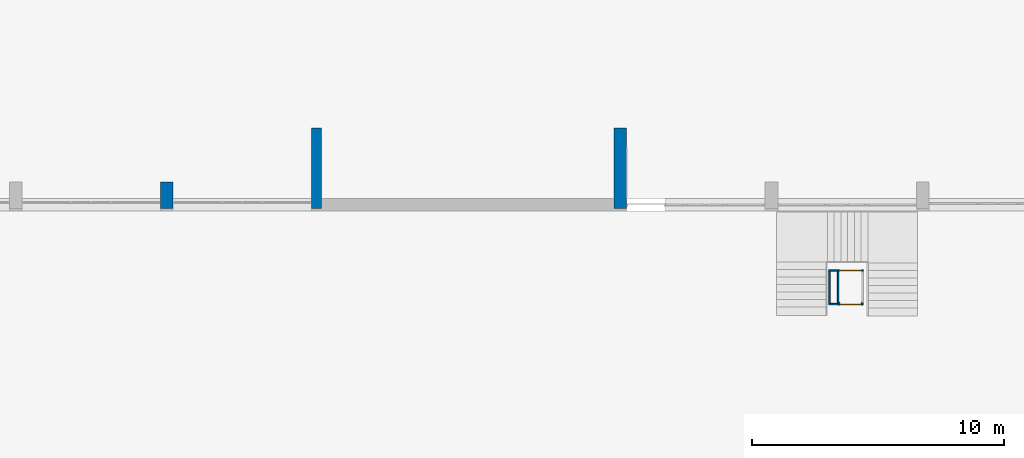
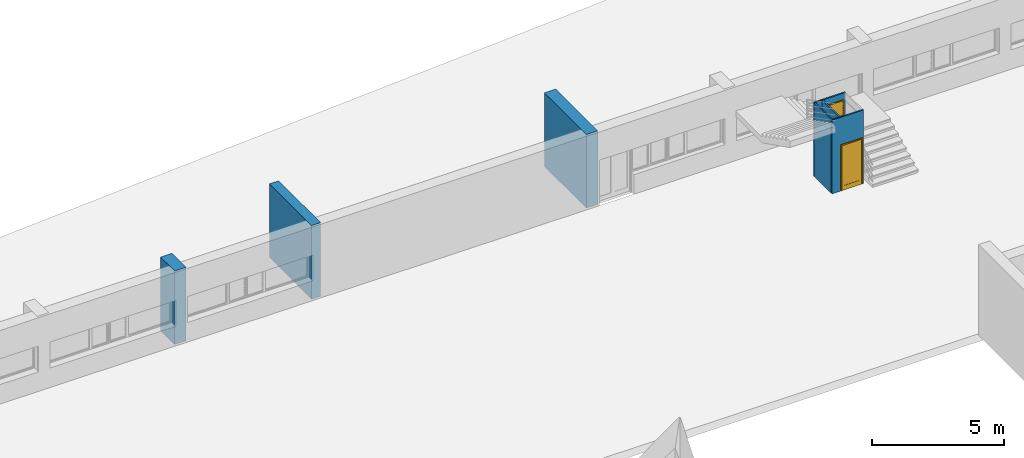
# One storey, part 4 of 36: 7 walls, 1 door, 1 window, 2 openings.
"""IFC2X3 building model written with IfcOpenShell, lengths in millimetres."""

from ifc_helpers import new_model, entity, si_unit, converted_unit, money_unit, direction, frame, origin_with_axes, place, context, subcontext, project, spatial, polyline, outline, extrude, open_shell, faceted_brep, surface_model, source, transform, mapped, material, material_list, layer, layer_set, layer_usage, type_object, element, fill, save


model = new_model("IFC2X3")

# Units and contexts
model_context = context("Model", 3, precision=1e-05, world=origin_with_axes(), true_north=direction((0.0, 1.0)))
body_context = subcontext(model_context, "Body", "Model", "MODEL_VIEW")
ifc_project = project(units=[si_unit("LENGTHUNIT", "METRE", prefix="MILLI"), si_unit("AREAUNIT", "SQUARE_METRE"), si_unit("VOLUMEUNIT", "CUBIC_METRE"), converted_unit("PLANEANGLEUNIT", "DEGREE", entity("IfcPlaneAngleMeasure", 0.0174532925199), si_unit("PLANEANGLEUNIT", "RADIAN"), dimensions=[0, 0, 0, 0, 0, 0, 0]), si_unit("SOLIDANGLEUNIT", "STERADIAN"), money_unit("USD"), converted_unit("TIMEUNIT", "Year", entity("IfcTimeMeasure", 31556926.0), si_unit("TIMEUNIT", "SECOND"), dimensions=[0, 0, 0, 0, 0, 0, 0]), si_unit("MASSUNIT", "GRAM"), si_unit("THERMODYNAMICTEMPERATUREUNIT", "DEGREE_CELSIUS"), si_unit("LUMINOUSINTENSITYUNIT", "LUMEN")], contexts=[model_context])

# Site, building, storey
site_placement = place(None, origin_with_axes())
site = spatial("IfcSite", under=ifc_project, at=site_placement, Name="Site", CompositionType="ELEMENT")
building_placement = place(site_placement, origin_with_axes())
building = spatial("IfcBuilding", under=site, at=building_placement, Name="Building", CompositionType="ELEMENT")
storey_placement = place(building_placement, frame((0.0, 0.0, -3400.0), z_axis=(0.0, 0.0, 1.0), x_axis=(1.0, 0.0, 0.0)))
storey = spatial("IfcBuildingStorey", under=building, at=storey_placement, Name="1KORRUS", CompositionType="ELEMENT", Elevation=-3400.0)

# Walls
ifc_material_1 = material(Name="Olemasolevad seinad tellis, uus viimistlus")
ifc_layer_1 = layer(ifc_material_1, 400.0, ventilated="UNKNOWN")
ifc_layer_set_1 = layer_set([ifc_layer_1], Name="Olemasolevad seinad tellis, uus viimistlus 400")
ifc_layer_usage_1 = layer_usage(ifc_layer_set_1, "AXIS2", "POSITIVE", 0.0)
wall_type_1 = type_object("IfcWallType", Name="Olemasolevad seinad tellis, uus viimistlus 400", PredefinedType="NOTDEFINED")
wall_1_placement = place(storey_placement, frame((-30001.8622273, -5039.6041088, 0.0), z_axis=(0.0, 0.0, 1.0), x_axis=(0.0, 1.0, 0.0)))
element("IfcWallStandardCase", 1, at=wall_1_placement, inside=storey, type_object=wall_type_1, material=ifc_layer_usage_1, Name="VS1", ObjectType="VS1", context=body_context, shape_type="SweptSolid", body=[
    extrude(outline(polyline([(0.0, 0.0), (3184.43089484, 0.0), (3184.43089484, 400.0), (0.0, 400.0), (0.0, 0.0)])), origin_with_axes(), (0.0, 0.0, 1.0), 3400.0),
])
ifc_layer_2 = layer(ifc_material_1, 500.0, ventilated="UNKNOWN")
ifc_layer_set_2 = layer_set([ifc_layer_2], Name="Olemasolevad seinad tellis, uus viimistlus 500")
ifc_layer_usage_2 = layer_usage(ifc_layer_set_2, "AXIS2", "POSITIVE", -100.0)
wall_type_2 = type_object("IfcWallType", Name="Olemasolevad seinad tellis, uus viimistlus 500", PredefinedType="NOTDEFINED")
wall_2_placement = place(storey_placement, frame((-35990.2967033, -5039.6041088, 0.0), z_axis=(0.0, 0.0, 1.0), x_axis=(0.0, 1.0, 0.0)))
element("IfcWallStandardCase", 2, at=wall_2_placement, inside=storey, type_object=wall_type_2, material=ifc_layer_usage_2, Name="VS1", ObjectType="VS1", context=body_context, shape_type="SweptSolid", body=[
    extrude(outline(polyline([(0.0, -100.0), (1057.40204125, -100.0), (1057.40204125, 400.0), (0.0, 400.0), (0.0, -100.0)])), origin_with_axes(), (0.0, 0.0, 1.0), 3400.0),
])
ifc_layer_usage_3 = layer_usage(ifc_layer_set_2, "AXIS2", "POSITIVE", 0.0)
wall_3_placement = place(storey_placement, frame((-17890.2967033, -5039.6041088, 0.0), z_axis=(0.0, 0.0, 1.0), x_axis=(0.0, 1.0, 0.0)))
element("IfcWallStandardCase", 3, at=wall_3_placement, inside=storey, type_object=wall_type_2, material=ifc_layer_usage_3, Name="VS1", ObjectType="VS1", context=body_context, shape_type="SweptSolid", body=[
    extrude(outline(polyline([(0.0, 0.0), (3184.43089484, 0.0), (3184.43089484, 500.0), (0.0, 500.0), (0.0, 0.0)])), origin_with_axes(), (0.0, 0.0, 1.0), 3400.0),
])
ifc_material_2 = material(Name="Terasprofiil")
ifc_layer_3 = layer(ifc_material_2, 60.0, ventilated="UNKNOWN")
ifc_layer_set_3 = layer_set([ifc_layer_3], Name="Terasprofiil 60")
ifc_layer_usage_4 = layer_usage(ifc_layer_set_3, "AXIS2", "POSITIVE", -60.0)
wall_type_3 = type_object("IfcWallType", Name="Terasprofiil 60", PredefinedType="NOTDEFINED")
wall_4_placement = place(storey_placement, frame((-9469.40654634, -7470.64352695, 0.0), z_axis=(0.0, 0.0, 1.0), x_axis=(0.0, -1.0, 0.0)))
element("IfcWallStandardCase", 4, at=wall_4_placement, inside=storey, type_object=wall_type_3, material=ifc_layer_usage_4, Name="Lifti sein", ObjectType="Lifti sein", context=body_context, shape_type="SweptSolid", body=[
    extrude(outline(polyline([(0.0, -60.0), (1400.0, -60.0), (1400.0, 0.0), (0.0, 0.0), (0.0, -60.0)])), origin_with_axes(), (0.0, 0.0, 1.0), 3400.0),
])

# Wall, opening, door
ifc_layer_usage_5 = layer_usage(ifc_layer_set_3, "AXIS2", "POSITIVE", -60.0)
wall_5_placement = place(storey_placement, frame((-8491.93119318, -8870.64352695, 0.0), z_axis=(0.0, 0.0, 1.0), x_axis=(-1.0, 0.0, 0.0)))
wall_5 = element("IfcWallStandardCase", 5, at=wall_5_placement, inside=storey, type_object=wall_type_3, material=ifc_layer_usage_5, Name="LS1", ObjectType="Lifti sein", context=body_context, shape_type="SweptSolid", body=[
    extrude(outline(polyline([(0.0, -60.0), (1377.47535316, -60.0), (1377.47535316, 0.0), (0.0, 0.0), (0.0, -60.0)])), origin_with_axes(), (0.0, 0.0, 1.0), 3400.0),
])
opening_1_placement = place(wall_5_placement, frame((512.692164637, 0.0, 0.0), z_axis=(0.0, 0.0, 1.0), x_axis=(1.0, 0.0, 0.0)))
opening_1 = element("IfcOpeningElement", 6, at=opening_1_placement, cuts=wall_5, Name="Liftiuks", context=body_context, shape_type="SweptSolid", body=[
    extrude(outline(polyline([(-450.0, -2100.0), (450.0, -2100.0), (450.0, 0.0), (-450.0, 0.0), (-450.0, -2100.0)])), frame((0.0, -60.0, 0.0), z_axis=(0.0, 1.0, 0.0), x_axis=(1.0, 0.0, 0.0)), (0.0, 0.0, 1.0), 180.0),
    extrude(outline(polyline([(-487.0, 2137.0), (-487.0, 0.0), (487.0, 0.0), (487.0, 2137.0), (-487.0, 2137.0)])), frame((0.0, -60.0, 0.0), z_axis=(0.0, -1.0, 0.0), x_axis=(1.0, 0.0, 0.0)), (0.0, 0.0, 1.0), 60.0),
    extrude(outline(polyline([(-487.0, 0.0), (-487.0, -2137.0), (487.0, -2137.0), (487.0, 0.0), (-487.0, 0.0)])), frame((0.0, 0.0, 0.0), z_axis=(0.0, 1.0, 0.0), x_axis=(1.0, 0.0, 0.0)), (0.0, 0.0, 1.0), 60.0),
])
ifc_material_3 = material(Name="Background")
ifc_material_list = material_list([ifc_material_3])
door_style = type_object("IfcDoorStyle", Name="Door 19", ConstructionType="NOTDEFINED", OperationType="SINGLE_SWING_RIGHT", ParameterTakesPrecedence=False, Sizeable=False)
shared_shape_1 = source(origin_with_axes(), body_context, "Body", "SurfaceModel", [
    faceted_brep([(-487.0, -79.0, 0.0), (-487.0, -60.0, 0.0), (-437.0, -60.0, 0.0), (-437.0, -79.0, 0.0), (-487.0, -79.0, 2137.0), (-487.0, -60.0, 2137.0), (-437.0, -60.0, 2087.0), (-437.0, -79.0, 2087.0)], [[[0, 1, 2, 3]], [[4, 5, 1, 0]], [[1, 5, 6, 2]], [[3, 2, 6, 7]], [[0, 3, 7, 4]], [[7, 6, 5, 4]]]),
    faceted_brep([(487.0, -79.0, 2137.0), (487.0, -60.0, 2137.0), (437.0, -60.0, 2087.0), (437.0, -79.0, 2087.0), (487.0, -79.0, 0.0), (487.0, -60.0, 0.0), (437.0, -60.0, 0.0), (437.0, -79.0, 0.0)], [[[0, 1, 2, 3]], [[4, 5, 1, 0]], [[1, 5, 6, 2]], [[3, 2, 6, 7]], [[0, 3, 7, 4]], [[7, 6, 5, 4]]]),
    faceted_brep([(-487.0, -79.0, 2137.0), (-487.0, -60.0, 2137.0), (-437.0, -60.0, 2087.0), (-437.0, -79.0, 2087.0), (487.0, -79.0, 2137.0), (487.0, -60.0, 2137.0), (437.0, -60.0, 2087.0), (437.0, -79.0, 2087.0)], [[[0, 1, 2, 3]], [[4, 5, 1, 0]], [[1, 5, 6, 2]], [[3, 2, 6, 7]], [[0, 3, 7, 4]], [[7, 6, 5, 4]]]),
    faceted_brep([(-487.0, 19.0, 0.0), (-437.0, 19.0, 0.0), (-437.0, 0.0, 0.0), (-487.0, 0.0, 0.0), (-487.0, 19.0, 2137.0), (-437.0, 19.0, 2087.0), (-437.0, 0.0, 2087.0), (-487.0, 0.0, 2137.0)], [[[0, 1, 2, 3]], [[0, 4, 5, 1]], [[1, 5, 6, 2]], [[3, 2, 6, 7]], [[4, 0, 3, 7]], [[5, 4, 7, 6]]]),
    faceted_brep([(487.0, 19.0, 2137.0), (437.0, 19.0, 2087.0), (437.0, 0.0, 2087.0), (487.0, 0.0, 2137.0), (487.0, 19.0, 0.0), (437.0, 19.0, 0.0), (437.0, 0.0, 0.0), (487.0, 0.0, 0.0)], [[[0, 1, 2, 3]], [[0, 4, 5, 1]], [[1, 5, 6, 2]], [[3, 2, 6, 7]], [[4, 0, 3, 7]], [[5, 4, 7, 6]]]),
    faceted_brep([(-487.0, 19.0, 2137.0), (-437.0, 19.0, 2087.0), (-437.0, 0.0, 2087.0), (-487.0, 0.0, 2137.0), (487.0, 19.0, 2137.0), (437.0, 19.0, 2087.0), (437.0, 0.0, 2087.0), (487.0, 0.0, 2137.0)], [[[0, 1, 2, 3]], [[0, 4, 5, 1]], [[1, 5, 6, 2]], [[3, 2, 6, 7]], [[4, 0, 3, 7]], [[5, 4, 7, 6]]]),
    faceted_brep([(-410.0, -40.0, 0.0), (-410.0, -40.0, 2060.0), (-410.0, -115.0, 2060.0), (-410.0, -115.0, 0.0), (-422.0, -40.0, 2060.0), (-422.0, -40.0, 0.0), (-422.0, 0.0, 2060.0), (-450.0, 0.0, 2060.0), (-450.0, -115.0, 2060.0), (-450.0, -115.0, 0.0), (-450.0, 0.0, 0.0), (-422.0, 0.0, 0.0)], [[[0, 1, 2, 3]], [[4, 1, 0, 5]], [[4, 6, 7, 8, 2, 1]], [[2, 8, 9, 3]], [[5, 0, 3, 9, 10, 11]], [[6, 4, 5, 11]], [[6, 11, 10, 7]], [[9, 8, 7, 10]]]),
    faceted_brep([(422.0, -40.0, 2060.0), (410.0, -40.0, 2060.0), (410.0, -115.0, 2060.0), (450.0, -115.0, 2060.0), (450.0, 0.0, 2060.0), (422.0, 0.0, 2060.0), (422.0, -40.0, 0.0), (410.0, -40.0, 0.0), (410.0, -115.0, 0.0), (450.0, -115.0, 0.0), (450.0, 0.0, 0.0), (422.0, 0.0, 0.0)], [[[0, 1, 2, 3, 4, 5]], [[1, 0, 6, 7]], [[1, 7, 8, 2]], [[2, 8, 9, 3]], [[3, 9, 10, 4]], [[11, 5, 4, 10]], [[0, 5, 11, 6]], [[6, 11, 10, 9, 8, 7]]]),
    faceted_brep([(-422.0, 0.0, 2072.0), (-422.0, 0.0, 2060.0), (-450.0, 0.0, 2060.0), (-450.0, 0.0, 2100.0), (450.0, 0.0, 2100.0), (450.0, 0.0, 2060.0), (422.0, 0.0, 2060.0), (422.0, 0.0, 2072.0), (-422.0, -40.0, 2072.0), (-422.0, -40.0, 2060.0), (-410.0, -40.0, 2060.0), (-410.0, -115.0, 2060.0), (-450.0, -115.0, 2060.0), (-450.0, -115.0, 2100.0), (450.0, -115.0, 2100.0), (450.0, -115.0, 2060.0), (422.0, -40.0, 2060.0), (410.0, -115.0, 2060.0), (410.0, -40.0, 2060.0), (422.0, -40.0, 2072.0)], [[[0, 1, 2, 3, 4, 5, 6, 7]], [[1, 0, 8, 9]], [[9, 10, 11, 12, 2, 1]], [[12, 13, 3, 2]], [[13, 14, 4, 3]], [[14, 15, 5, 4]], [[16, 6, 5, 15, 17, 18]], [[7, 6, 16, 19]], [[0, 7, 19, 8]], [[16, 18, 10, 9, 8, 19]], [[10, 18, 17, 11]], [[15, 14, 13, 12, 11, 17]]]),
    faceted_brep([(422.0, 0.0, 200.0), (422.0, -40.0, 200.0), (322.0, -40.0, 200.0), (322.0, 0.0, 200.0), (422.0, 0.0, 1972.0), (422.0, -40.0, 1972.0), (322.0, -40.0, 1972.0), (322.0, 0.0, 1972.0)], [[[0, 1, 2, 3]], [[4, 5, 1, 0]], [[1, 5, 6, 2]], [[3, 2, 6, 7]], [[0, 3, 7, 4]], [[7, 6, 5, 4]]]),
    faceted_brep([(-422.0, 0.0, 200.0), (-422.0, -40.0, 200.0), (-422.0, -40.0, 1972.0), (-422.0, 0.0, 1972.0), (-322.0, 0.0, 200.0), (-322.0, -40.0, 200.0), (-322.0, -40.0, 1972.0), (-322.0, 0.0, 1972.0)], [[[0, 1, 2, 3]], [[4, 5, 1, 0]], [[1, 5, 6, 2]], [[3, 2, 6, 7]], [[0, 3, 7, 4]], [[7, 6, 5, 4]]]),
    faceted_brep([(422.0, 0.0, 0.0), (422.0, -40.0, 0.0), (-422.0, -40.0, 0.0), (-422.0, 0.0, 0.0), (422.0, 0.0, 200.0), (422.0, -40.0, 200.0), (322.0, -40.0, 200.0), (-322.0, -40.0, 200.0), (-422.0, -40.0, 200.0), (-422.0, 0.0, 200.0), (-322.0, 0.0, 200.0), (322.0, 0.0, 200.0)], [[[0, 1, 2, 3]], [[4, 5, 1, 0]], [[1, 5, 6, 7, 8, 2]], [[3, 2, 8, 9]], [[0, 3, 9, 10, 11, 4]], [[11, 6, 5, 4]], [[10, 7, 6, 11]], [[9, 8, 7, 10]]]),
    faceted_brep([(422.0, 0.0, 2072.0), (422.0, -40.0, 2072.0), (422.0, -40.0, 1972.0), (422.0, 0.0, 1972.0), (-422.0, 0.0, 2072.0), (-422.0, -40.0, 2072.0), (-422.0, -40.0, 1972.0), (-322.0, -40.0, 1972.0), (322.0, -40.0, 1972.0), (322.0, 0.0, 1972.0), (-322.0, 0.0, 1972.0), (-422.0, 0.0, 1972.0)], [[[0, 1, 2, 3]], [[4, 5, 1, 0]], [[1, 5, 6, 7, 8, 2]], [[3, 2, 8, 9]], [[0, 3, 9, 10, 11, 4]], [[11, 6, 5, 4]], [[10, 7, 6, 11]], [[9, 8, 7, 10]]]),
    surface_model("IfcShellBasedSurfaceModel", [(322.0, -14.0, 200.0), (-322.0, -14.0, 200.0), (-322.0, -14.0, 1972.0), (322.0, -14.0, 1972.0)], [open_shell([[[0, 1, 2, 3]]])]),
    surface_model("IfcShellBasedSurfaceModel", [(322.0, -26.0, 200.0), (322.0, -26.0, 1972.0), (-322.0, -26.0, 1972.0), (-322.0, -26.0, 200.0)], [open_shell([[[0, 1, 2, 3]]])]),
])
door_placement = place(opening_1_placement, frame((-450.0, 0.0, 0.0), z_axis=(0.0, 0.0, 1.0), x_axis=(1.0, 0.0, 0.0)))
door = element("IfcDoor", 7, at=door_placement, inside=storey, type_object=door_style, material=ifc_material_list, Name="Liftiuks", ObjectType="door", OverallHeight=2100.0, OverallWidth=900.0, context=body_context, shape_type="MappedRepresentation", body=[
    mapped(shared_shape_1, transform((450.0, 0.0, 0.0))),
])
fill(opening_1, door)

# Wall, opening, window
ifc_layer_usage_6 = layer_usage(ifc_layer_set_3, "AXIS2", "POSITIVE", 0.0)
wall_6_placement = place(storey_placement, frame((-8491.93119318, -7470.64352695, 0.0), z_axis=(0.0, 0.0, 1.0), x_axis=(-1.0, 0.0, 0.0)))
wall_6 = element("IfcWallStandardCase", 8, at=wall_6_placement, inside=storey, type_object=wall_type_3, material=ifc_layer_usage_6, Name="LS1", ObjectType="Lifti sein", context=body_context, shape_type="SweptSolid", body=[
    extrude(outline(polyline([(0.0, 0.0), (1377.47535316, 0.0), (1377.47535316, 60.0), (0.0, 60.0), (0.0, 0.0)])), origin_with_axes(), (0.0, 0.0, 1.0), 3400.0),
])
opening_2_placement = place(wall_6_placement, frame((518.737676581, 0.0, 0.0), z_axis=(0.0, 0.0, 1.0), x_axis=(1.0, 0.0, 0.0)))
opening_2 = element("IfcOpeningElement", 9, at=opening_2_placement, cuts=wall_6, Name="Lifti klaassein", context=body_context, shape_type="SweptSolid", body=[
    extrude(outline(polyline([(-450.0, 0.0), (450.0, 0.0), (450.0, 3100.0), (-450.0, 3100.0), (-450.0, 0.0)])), frame((0.0, -60.0, 0.0), z_axis=(0.0, 1.0, 0.0), x_axis=(-1.0, 0.0, 0.0)), (0.0, 0.0, 1.0), 180.0),
])
window_style = type_object("IfcWindowStyle", Name="Vertical Multi-Sash Window 19", ConstructionType="NOTDEFINED", OperationType="USERDEFINED", ParameterTakesPrecedence=False, Sizeable=False)
shared_shape_2 = source(origin_with_axes(), body_context, "Body", "SurfaceModel", [
    faceted_brep([(-400.0, -60.0, 3050.0), (-400.0, -10.0, 3050.0), (-450.0, -10.0, 3050.0), (-450.0, -60.0, 3050.0), (-400.0, -60.0, 2375.0), (-400.0, -10.0, 2375.0), (-400.0, -10.0, 2275.0), (-400.0, -10.0, 1600.0), (-400.0, -10.0, 1500.0), (-400.0, -10.0, 825.0), (-400.0, -10.0, 725.0), (-400.0, -10.0, 50.0), (-450.0, -10.0, 50.0), (-450.0, -60.0, 50.0), (-400.0, -60.0, 50.0), (-400.0, -60.0, 725.0), (-400.0, -60.0, 825.0), (-400.0, -60.0, 1500.0), (-400.0, -60.0, 1600.0), (-400.0, -60.0, 2275.0)], [[[0, 1, 2, 3]], [[4, 5, 1, 0]], [[1, 5, 6, 7, 8, 9, 10, 11, 12, 2]], [[3, 2, 12, 13]], [[0, 3, 13, 14, 15, 16, 17, 18, 19, 4]], [[19, 6, 5, 4]], [[18, 7, 6, 19]], [[17, 8, 7, 18]], [[16, 9, 8, 17]], [[15, 10, 9, 16]], [[14, 11, 10, 15]], [[13, 12, 11, 14]]]),
    faceted_brep([(400.0, -60.0, 2375.0), (400.0, -10.0, 2375.0), (400.0, -10.0, 2275.0), (400.0, -60.0, 2275.0), (400.0, -60.0, 3050.0), (400.0, -10.0, 3050.0), (450.0, -10.0, 3050.0), (450.0, -10.0, 50.0), (400.0, -10.0, 50.0), (400.0, -10.0, 725.0), (400.0, -10.0, 825.0), (400.0, -10.0, 1500.0), (400.0, -10.0, 1600.0), (400.0, -60.0, 1600.0), (400.0, -60.0, 1500.0), (400.0, -60.0, 825.0), (400.0, -60.0, 725.0), (400.0, -60.0, 50.0), (450.0, -60.0, 50.0), (450.0, -60.0, 3050.0)], [[[0, 1, 2, 3]], [[4, 5, 1, 0]], [[1, 5, 6, 7, 8, 9, 10, 11, 12, 2]], [[3, 2, 12, 13]], [[0, 3, 13, 14, 15, 16, 17, 18, 19, 4]], [[19, 6, 5, 4]], [[18, 7, 6, 19]], [[17, 8, 7, 18]], [[16, 9, 8, 17]], [[15, 10, 9, 16]], [[14, 11, 10, 15]], [[13, 12, 11, 14]]]),
    faceted_brep([(400.0, -60.0, 3050.0), (400.0, -10.0, 3050.0), (450.0, -10.0, 3050.0), (450.0, -60.0, 3050.0), (-400.0, -60.0, 3050.0), (-400.0, -10.0, 3050.0), (-450.0, -10.0, 3050.0), (-450.0, -10.0, 3100.0), (450.0, -10.0, 3100.0), (450.0, -60.0, 3100.0), (-450.0, -60.0, 3100.0), (-450.0, -60.0, 3050.0)], [[[0, 1, 2, 3]], [[4, 5, 1, 0]], [[1, 5, 6, 7, 8, 2]], [[3, 2, 8, 9]], [[0, 3, 9, 10, 11, 4]], [[11, 6, 5, 4]], [[10, 7, 6, 11]], [[9, 8, 7, 10]]]),
    faceted_brep([(-400.0, -60.0, 50.0), (-400.0, -10.0, 50.0), (-450.0, -10.0, 50.0), (-450.0, -60.0, 50.0), (400.0, -60.0, 50.0), (400.0, -10.0, 50.0), (450.0, -10.0, 50.0), (450.0, -10.0, 0.0), (-450.0, -10.0, 0.0), (-450.0, -60.0, 0.0), (450.0, -60.0, 0.0), (450.0, -60.0, 50.0)], [[[0, 1, 2, 3]], [[4, 5, 1, 0]], [[1, 5, 6, 7, 8, 2]], [[3, 2, 8, 9]], [[0, 3, 9, 10, 11, 4]], [[11, 6, 5, 4]], [[10, 7, 6, 11]], [[9, 8, 7, 10]]]),
    faceted_brep([(400.0, -60.0, 825.0), (400.0, -10.0, 825.0), (-400.0, -10.0, 825.0), (-400.0, -60.0, 825.0), (400.0, -60.0, 725.0), (400.0, -10.0, 725.0), (-400.0, -10.0, 725.0), (-400.0, -60.0, 725.0)], [[[0, 1, 2, 3]], [[4, 5, 1, 0]], [[1, 5, 6, 2]], [[3, 2, 6, 7]], [[0, 3, 7, 4]], [[7, 6, 5, 4]]]),
    faceted_brep([(400.0, -60.0, 1600.0), (400.0, -10.0, 1600.0), (-400.0, -10.0, 1600.0), (-400.0, -60.0, 1600.0), (400.0, -60.0, 1500.0), (400.0, -10.0, 1500.0), (-400.0, -10.0, 1500.0), (-400.0, -60.0, 1500.0)], [[[0, 1, 2, 3]], [[4, 5, 1, 0]], [[1, 5, 6, 2]], [[3, 2, 6, 7]], [[0, 3, 7, 4]], [[7, 6, 5, 4]]]),
    faceted_brep([(400.0, -60.0, 2375.0), (400.0, -10.0, 2375.0), (-400.0, -10.0, 2375.0), (-400.0, -60.0, 2375.0), (400.0, -60.0, 2275.0), (400.0, -10.0, 2275.0), (-400.0, -10.0, 2275.0), (-400.0, -60.0, 2275.0)], [[[0, 1, 2, 3]], [[4, 5, 1, 0]], [[1, 5, 6, 2]], [[3, 2, 6, 7]], [[0, 3, 7, 4]], [[7, 6, 5, 4]]]),
    surface_model("IfcShellBasedSurfaceModel", [(-400.0, -45.0, 50.0), (400.0, -45.0, 50.0), (400.0, -45.0, 725.0), (-400.0, -45.0, 725.0)], [open_shell([[[0, 1, 2, 3]]])]),
    surface_model("IfcShellBasedSurfaceModel", [(-400.0, -25.0, 50.0), (-400.0, -25.0, 725.0), (400.0, -25.0, 725.0), (400.0, -25.0, 50.0)], [open_shell([[[0, 1, 2, 3]]])]),
    surface_model("IfcShellBasedSurfaceModel", [(-400.0, -45.0, 825.0), (400.0, -45.0, 825.0), (400.0, -45.0, 1500.0), (-400.0, -45.0, 1500.0)], [open_shell([[[0, 1, 2, 3]]])]),
    surface_model("IfcShellBasedSurfaceModel", [(-400.0, -25.0, 825.0), (-400.0, -25.0, 1500.0), (400.0, -25.0, 1500.0), (400.0, -25.0, 825.0)], [open_shell([[[0, 1, 2, 3]]])]),
    surface_model("IfcShellBasedSurfaceModel", [(-400.0, -45.0, 1600.0), (400.0, -45.0, 1600.0), (400.0, -45.0, 2275.0), (-400.0, -45.0, 2275.0)], [open_shell([[[0, 1, 2, 3]]])]),
    surface_model("IfcShellBasedSurfaceModel", [(-400.0, -25.0, 1600.0), (-400.0, -25.0, 2275.0), (400.0, -25.0, 2275.0), (400.0, -25.0, 1600.0)], [open_shell([[[0, 1, 2, 3]]])]),
    surface_model("IfcShellBasedSurfaceModel", [(-400.0, -45.0, 2375.0), (400.0, -45.0, 2375.0), (400.0, -45.0, 3050.0), (-400.0, -45.0, 3050.0)], [open_shell([[[0, 1, 2, 3]]])]),
    surface_model("IfcShellBasedSurfaceModel", [(-400.0, -25.0, 2375.0), (-400.0, -25.0, 3050.0), (400.0, -25.0, 3050.0), (400.0, -25.0, 2375.0)], [open_shell([[[0, 1, 2, 3]]])]),
])
window_placement = place(opening_2_placement, frame((450.0, 0.0, 0.0), z_axis=(0.0, 0.0, 1.0), x_axis=(-1.0, 0.0, 0.0)))
window = element("IfcWindow", 10, at=window_placement, inside=storey, type_object=window_style, material=ifc_material_list, Name="Lifti klaassein", ObjectType="WINDOW", OverallHeight=3100.0, OverallWidth=900.0, context=body_context, shape_type="MappedRepresentation", body=[
    mapped(shared_shape_2, transform((450.0, 0.0, 0.0))),
])
fill(opening_2, window)

# Wall
ifc_layer_usage_7 = layer_usage(ifc_layer_set_3, "AXIS2", "POSITIVE", 0.0)
wall_7_placement = place(storey_placement, frame((-9869.40654634, -7470.64352695, 0.0), z_axis=(0.0, 0.0, 1.0), x_axis=(0.0, -1.0, 0.0)))
element("IfcWallStandardCase", 11, at=wall_7_placement, inside=storey, type_object=wall_type_3, material=ifc_layer_usage_7, Name="Lifti sein", ObjectType="Lifti sein", context=body_context, shape_type="SweptSolid", body=[
    extrude(outline(polyline([(0.0, 0.0), (1400.0, 0.0), (1400.0, 60.0), (0.0, 60.0), (0.0, 0.0)])), origin_with_axes(), (0.0, 0.0, 1.0), 3400.0),
])

save(model, "model.ifc")
